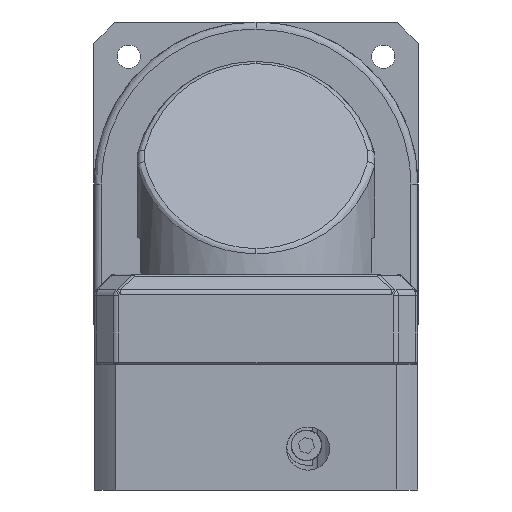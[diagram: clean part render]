
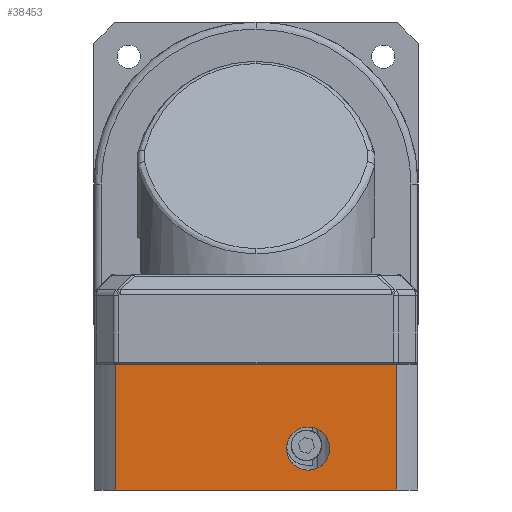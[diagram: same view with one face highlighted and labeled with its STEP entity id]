
A CAD part, front view. The second image highlights one B-rep face of the part: STEP entity #38453.
In plain terms, the highlighted planar face has unit normal (0, -1, 0) as drawn and (0, 0, 1) by its records, which use the part's own axes.
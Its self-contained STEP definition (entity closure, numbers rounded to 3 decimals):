
#1452 = CARTESIAN_POINT ( 'NONE',  ( 11.5, -14.5, 45. ) ) ;
#5447 = CARTESIAN_POINT ( 'NONE',  ( 59., 38.926, 45. ) ) ;
#5625 = DIRECTION ( 'NONE',  ( 1., 0., 0. ) ) ;
#5726 = CARTESIAN_POINT ( 'NONE',  ( 0., -38.926, 45. ) ) ;
#6249 = DIRECTION ( 'NONE',  ( 0., -1., 0. ) ) ;
#8478 = CIRCLE ( 'NONE', #37596, 6. ) ;
#8903 = DIRECTION ( 'NONE',  ( 0., 0., -1. ) ) ;
#11302 = EDGE_CURVE ( 'NONE', #38569, #33562, #39440, .T. ) ;
#11871 = PLANE ( 'NONE',  #21232 ) ;
#13446 = CARTESIAN_POINT ( 'NONE',  ( 0., -45., 45. ) ) ;
#14440 = ORIENTED_EDGE ( 'NONE', *, *, #17751, .T. ) ;
#15234 = DIRECTION ( 'NONE',  ( 0., 1., 0. ) ) ;
#16013 = DIRECTION ( 'NONE',  ( 1., 0., 0. ) ) ;
#16705 = CARTESIAN_POINT ( 'NONE',  ( 0., 38.926, 45. ) ) ;
#17121 = EDGE_CURVE ( 'NONE', #35295, #38569, #17202, .T. ) ;
#17202 = LINE ( 'NONE', #5447, #48298 ) ;
#17751 = EDGE_CURVE ( 'NONE', #37554, #35295, #18454, .T. ) ;
#18454 = LINE ( 'NONE', #19375, #50690 ) ;
#18785 = ORIENTED_EDGE ( 'NONE', *, *, #11302, .T. ) ;
#19001 = EDGE_LOOP ( 'NONE', ( #47529, #14440, #51337, #18785 ) ) ;
#19375 = CARTESIAN_POINT ( 'NONE',  ( 35., 59.5, 45. ) ) ;
#20006 = FACE_BOUND ( 'NONE', #32597, .T. ) ;
#21232 = AXIS2_PLACEMENT_3D ( 'NONE', #32400, #40430, #16013 ) ;
#22830 = ORIENTED_EDGE ( 'NONE', *, *, #50056, .T. ) ;
#24838 = ORIENTED_EDGE ( 'NONE', *, *, #30690, .T. ) ;
#27159 = CARTESIAN_POINT ( 'NONE',  ( 35., 38.926, 45. ) ) ;
#28740 = VECTOR ( 'NONE', #6249, 1000. ) ;
#30220 = CARTESIAN_POINT ( 'NONE',  ( 59., -38.926, 45. ) ) ;
#30260 = DIRECTION ( 'NONE',  ( 0., 0., -1. ) ) ;
#30690 = EDGE_CURVE ( 'NONE', #32703, #47390, #47069, .T. ) ;
#30927 = FACE_OUTER_BOUND ( 'NONE', #19001, .T. ) ;
#32017 = AXIS2_PLACEMENT_3D ( 'NONE', #1452, #30260, #5625 ) ;
#32400 = CARTESIAN_POINT ( 'NONE',  ( 59., -45., 45. ) ) ;
#32597 = EDGE_LOOP ( 'NONE', ( #24838, #22830 ) ) ;
#32703 = VERTEX_POINT ( 'NONE', #50355 ) ;
#33562 = VERTEX_POINT ( 'NONE', #5726 ) ;
#33564 = CARTESIAN_POINT ( 'NONE',  ( 11.5, -14.5, 45. ) ) ;
#35295 = VERTEX_POINT ( 'NONE', #27159 ) ;
#36405 = CARTESIAN_POINT ( 'NONE',  ( 5.5, -14.5, 45. ) ) ;
#36948 = EDGE_CURVE ( 'NONE', #33562, #37554, #52236, .T. ) ;
#37554 = VERTEX_POINT ( 'NONE', #50570 ) ;
#37567 = DIRECTION ( 'NONE',  ( 1., 0., 0. ) ) ;
#37596 = AXIS2_PLACEMENT_3D ( 'NONE', #33564, #8903, #37567 ) ;
#38185 = DIRECTION ( 'NONE',  ( -1., 0., 0. ) ) ;
#38453 = ADVANCED_FACE ( 'NONE', ( #30927, #20006 ), #11871, .T. ) ;
#38569 = VERTEX_POINT ( 'NONE', #16705 ) ;
#39440 = LINE ( 'NONE', #13446, #28740 ) ;
#40430 = DIRECTION ( 'NONE',  ( 0., 0., 1. ) ) ;
#47069 = CIRCLE ( 'NONE', #32017, 6. ) ;
#47390 = VERTEX_POINT ( 'NONE', #36405 ) ;
#47529 = ORIENTED_EDGE ( 'NONE', *, *, #36948, .T. ) ;
#48298 = VECTOR ( 'NONE', #38185, 1000. ) ;
#50056 = EDGE_CURVE ( 'NONE', #47390, #32703, #8478, .T. ) ;
#50355 = CARTESIAN_POINT ( 'NONE',  ( 17.5, -14.5, 45. ) ) ;
#50462 = DIRECTION ( 'NONE',  ( 1., 0., 0. ) ) ;
#50570 = CARTESIAN_POINT ( 'NONE',  ( 35., -38.926, 45. ) ) ;
#50690 = VECTOR ( 'NONE', #15234, 1000. ) ;
#50980 = VECTOR ( 'NONE', #50462, 1000. ) ;
#51337 = ORIENTED_EDGE ( 'NONE', *, *, #17121, .T. ) ;
#52236 = LINE ( 'NONE', #30220, #50980 ) ;
